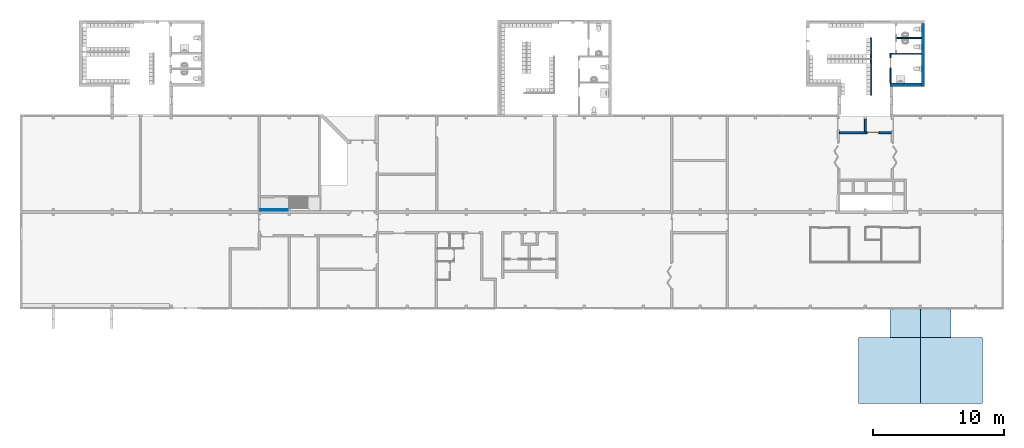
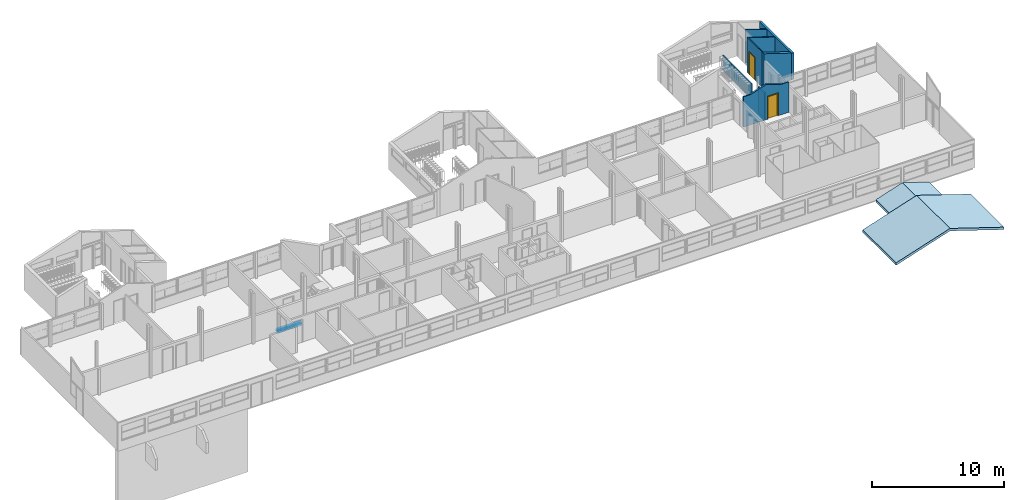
# One storey, part 33 of 48: 8 walls, 3 building element parts, 2 doors, 2 roofs, 2 openings, 1 element without a shape of its own.
"""IFC2X3 building model written with IfcOpenShell, lengths in millimetres."""

from ifc_helpers import new_model, entity, si_unit, converted_unit, derived_unit, money_unit, direction, frame, origin_with_axes, place, context, subcontext, project, spatial, open_shell, faceted_brep, surface_model, material, type_object, element, fill, aggregate, save


model = new_model("IFC2X3")

# Units and contexts
model_context = context("Model", 3, precision=0.01, world=origin_with_axes(), true_north=direction((0.0, 1.0)))
body_context = subcontext(model_context, "Body", "Model", "MODEL_VIEW")
ifc_project = project(units=[si_unit("LENGTHUNIT", "METRE", prefix="MILLI"), si_unit("AREAUNIT", "SQUARE_METRE"), si_unit("VOLUMEUNIT", "CUBIC_METRE"), converted_unit("PLANEANGLEUNIT", "DEGREE", entity("IfcPlaneAngleMeasure", 0.0174532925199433), si_unit("PLANEANGLEUNIT", "RADIAN"), dimensions=[0, 0, 0, 0, 0, 0, 0]), money_unit("USD"), converted_unit("TIMEUNIT", "Year", entity("IfcTimeMeasure", 31557600.0), si_unit("TIMEUNIT", "SECOND"), dimensions=[0, 0, 1, 0, 0, 0, 0]), si_unit("MASSUNIT", "GRAM", prefix="KILO"), si_unit("THERMODYNAMICTEMPERATUREUNIT", "DEGREE_CELSIUS"), si_unit("LUMINOUSINTENSITYUNIT", "LUMEN"), si_unit("ENERGYUNIT", "JOULE", prefix="MEGA"), derived_unit("THERMALCONDUCTANCEUNIT", [(si_unit("POWERUNIT", "WATT"), 1), (si_unit("LENGTHUNIT", "METRE"), -1), (si_unit("THERMODYNAMICTEMPERATUREUNIT", "KELVIN"), -1)]), derived_unit("SPECIFICHEATCAPACITYUNIT", [(si_unit("ENERGYUNIT", "JOULE"), 1), (si_unit("MASSUNIT", "GRAM", prefix="KILO"), -1), (si_unit("THERMODYNAMICTEMPERATUREUNIT", "KELVIN"), -1)]), derived_unit("MASSDENSITYUNIT", [(si_unit("MASSUNIT", "GRAM", prefix="KILO"), 1), (si_unit("VOLUMEUNIT", "CUBIC_METRE"), -1)])], contexts=[model_context])

# Site, building, storey
site_placement = place(None, origin_with_axes())
site = spatial("IfcSite", under=ifc_project, at=site_placement, Name="Site", CompositionType="ELEMENT")
building_placement = place(site_placement, origin_with_axes())
building = spatial("IfcBuilding", under=site, at=building_placement, Name="Building", CompositionType="ELEMENT")
storey_placement = place(building_placement, frame((0.0, 0.0, 3300.0), z_axis=(0.0, 0.0, 1.0), x_axis=(1.0, 0.0, 0.0)))
storey = spatial("IfcBuildingStorey", under=building, at=storey_placement, Name="1 ETG", CompositionType="ELEMENT", Elevation=3300.0)

# Wall, opening, door
ifc_material_1 = material(Name="GENERIC - INTERNAL FILLER")
wall_type_1 = type_object("IfcWallType", Name="GENERIC - INTERNAL FILLER 150", PredefinedType="NOTDEFINED")
wall_1_placement = place(storey_placement, frame((59971.49461503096, 20619.89616703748, 0.0), z_axis=(0.0, 0.0, 1.0), x_axis=(1.0, 0.0, 0.0)))
wall_1 = element("IfcWall", 1, at=wall_1_placement, inside=storey, type_object=wall_type_1, material=ifc_material_1, Name="SW - 001", context=body_context, shape_type="Brep", body=[
    faceted_brep([(2111.657667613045, 0.0, 2100.0), (2111.657667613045, 0.0, 0.0), (0.0, 0.0, 0.0), (0.0, 0.0, 2400.0), (0.0, 0.0, 2762.143786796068), (481.7342992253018, 0.0, 2762.143786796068), (1978.516077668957, 0.0, 3248.537732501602), (3475.607365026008, 0.0, 2762.143786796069), (3968.505384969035, 0.0, 2762.143786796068), (3968.505384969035, 0.0, 2400.0), (3968.505384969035, 0.0, 0.0), (3011.657667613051, 0.0, 0.0), (3011.657667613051, 0.0, 2100.0), (2111.657667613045, -149.9999999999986, 2100.0), (2111.657667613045, -149.9999999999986, 0.0), (1.326301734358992, -149.9999999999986, 0.0), (1.326301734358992, -149.9999999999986, 2400.0), (0.0, -149.9999999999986, 2810.831202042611), (0.0, -149.9999999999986, 2400.000000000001), (631.5602512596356, -149.9999999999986, 2810.831202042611), (1978.516077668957, -149.9999999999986, 3248.537732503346), (3325.750431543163, -149.9999999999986, 2810.831202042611), (3968.505384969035, -149.9999999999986, 2810.831202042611), (3968.505384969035, -149.9999999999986, 2400.0), (3968.505384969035, -149.9999999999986, 0.0), (3011.657667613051, -149.9999999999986, 0.0), (3011.657667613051, -149.9999999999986, 2100.0)], [[[0, 1, 2, 3, 4, 5, 6, 7, 8, 9, 10, 11, 12]], [[1, 0, 13, 14]], [[1, 14, 15, 2]], [[2, 15, 16, 3]], [[17, 4, 3, 18]], [[17, 19, 5, 4]], [[20, 6, 5, 19]], [[7, 6, 20, 21]], [[22, 8, 7, 21]], [[23, 24, 10, 9, 8, 22]], [[25, 11, 10, 24]], [[12, 11, 25, 26]], [[0, 12, 26, 13]], [[26, 25, 24, 23, 22, 21, 20, 19, 17, 18, 16, 15, 14, 13]], [[18, 3, 16]]]),
])
opening_1_placement = place(wall_1_placement, frame((2561.657667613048, 0.0, 0.0), z_axis=(0.0, 0.0, 1.0), x_axis=(1.0, 0.0, 0.0)))
opening_1 = element("IfcOpeningElement", 2, at=opening_1_placement, cuts=wall_1, Name="DOO - 002", context=body_context, shape_type="Brep", body=[
    faceted_brep([(-450.0000000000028, -149.9999999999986, 2100.0), (450.0000000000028, -149.9999999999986, 2100.0), (450.0000000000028, 0.0, 2100.0), (-450.0000000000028, 0.0, 2100.0), (450.0000000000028, -149.9999999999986, 0.0), (-450.0000000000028, -149.9999999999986, 0.0), (-487.0000000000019, -149.9999999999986, 0.0), (-487.0000000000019, -149.9999999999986, 2137.0), (487.0000000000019, -149.9999999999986, 2137.0), (487.0000000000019, -149.9999999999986, 0.0), (450.0000000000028, 0.0, 0.0), (487.0000000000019, 0.0, 0.0), (487.0000000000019, 0.0, 2137.0), (-487.0000000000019, 0.0, 2137.0), (-487.0000000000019, 0.0, 0.0), (-450.0000000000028, 0.0, 0.0), (-450.0000000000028, -150.9999999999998, 0.0), (-487.0000000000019, -150.9999999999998, 0.0), (-487.0000000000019, -150.9999999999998, 2137.0), (487.0000000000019, -150.9999999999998, 2137.0), (487.0000000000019, -150.9999999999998, 0.0), (450.0000000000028, -150.9999999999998, 0.0), (-450.0000000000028, 1.000000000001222, 0.0), (450.0000000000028, 1.000000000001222, 0.0), (487.0000000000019, 1.000000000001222, 0.0), (487.0000000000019, 1.000000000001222, 2137.0), (-487.0000000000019, 1.000000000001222, 2137.0), (-487.0000000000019, 1.000000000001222, 0.0), (-450.0000000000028, -150.9999999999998, 2100.0), (450.0000000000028, -150.9999999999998, 2100.0)], [[[0, 1, 2, 3]], [[4, 1, 0, 5, 6, 7, 8, 9]], [[1, 4, 10, 2]], [[3, 2, 10, 11, 12, 13, 14, 15]], [[5, 0, 3, 15]], [[5, 16, 17, 6]], [[7, 6, 17, 18]], [[8, 7, 18, 19]], [[9, 8, 19, 20]], [[21, 4, 9, 20]], [[16, 5, 15, 22, 23, 10, 4, 21]], [[10, 23, 24, 11]], [[12, 11, 24, 25]], [[13, 12, 25, 26]], [[14, 13, 26, 27]], [[22, 15, 14, 27]], [[28, 29, 21, 20, 19, 18, 17, 16]], [[23, 22, 27, 26, 25, 24]], [[28, 16, 21, 29]]]),
])
door_style_1 = type_object("IfcDoorStyle", Name="Dør", ConstructionType="NOTDEFINED", OperationType="SINGLE_SWING_LEFT", ParameterTakesPrecedence=False, Sizeable=False)
door_1_placement = place(opening_1_placement, frame((-450.0000000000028, 0.0, 0.0), z_axis=(0.0, 0.0, 1.0), x_axis=(1.0, 0.0, 0.0)))
door_1 = element("IfcDoor", 3, at=door_1_placement, inside=storey, type_object=door_style_1, Name="DOO - 002", ObjectType="DOOR", OverallHeight=2100.0, OverallWidth=900.0, context=body_context, shape_type="Brep", body=[
    faceted_brep([(900.0000000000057, -35.00000000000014, 0.0), (875.0, -35.00000000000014, 0.0), (875.0, 0.0, 0.0), (900.0000000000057, 0.0, 0.0), (900.0000000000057, -35.00000000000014, 2100.0), (875.0, -35.00000000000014, 2075.0), (875.0, 0.0, 2075.0), (900.0000000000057, 0.0, 2100.0)], [[[0, 1, 2, 3]], [[0, 4, 5, 1]], [[1, 5, 6, 2]], [[3, 2, 6, 7]], [[4, 0, 3, 7]], [[5, 4, 7, 6]]]),
    faceted_brep([(0.0, -35.00000000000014, 2100.0), (25.00000000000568, -35.00000000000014, 2075.0), (25.00000000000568, 0.0, 2075.0), (0.0, 0.0, 2100.0), (0.0, -35.00000000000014, 0.0), (25.00000000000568, -35.00000000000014, 0.0), (25.00000000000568, 0.0, 0.0), (0.0, 0.0, 0.0)], [[[0, 1, 2, 3]], [[0, 4, 5, 1]], [[1, 5, 6, 2]], [[3, 2, 6, 7]], [[4, 0, 3, 7]], [[5, 4, 7, 6]]]),
    faceted_brep([(875.0, -35.00000000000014, 2075.0), (25.00000000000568, -35.00000000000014, 2075.0), (25.00000000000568, 0.0, 2075.0), (875.0, 0.0, 2075.0), (900.0000000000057, -35.00000000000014, 2100.0), (0.0, -35.00000000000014, 2100.0), (0.0, 0.0, 2100.0), (900.0000000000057, 0.0, 2100.0)], [[[0, 1, 2, 3]], [[0, 4, 5, 1]], [[1, 5, 6, 2]], [[3, 2, 6, 7]], [[4, 0, 3, 7]], [[5, 4, 7, 6]]]),
    faceted_brep([(937.0000000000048, 18.99999999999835, 0.0), (937.0000000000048, 0.0, 0.0), (887.0000000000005, 0.0, 0.0), (887.0000000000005, 18.99999999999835, 0.0), (937.0000000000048, 19.0000000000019, 2137.0), (937.0000000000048, 0.0, 2137.0), (887.0000000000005, 0.0, 2087.0), (887.0000000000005, 19.0000000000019, 2087.0)], [[[0, 1, 2, 3]], [[4, 5, 1, 0]], [[1, 5, 6, 2]], [[3, 2, 6, 7]], [[0, 3, 7, 4]], [[7, 6, 5, 4]]]),
    faceted_brep([(-36.99999999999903, 19.0000000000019, 2137.0), (-36.99999999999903, 0.0, 2137.0), (13.00000000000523, 0.0, 2087.0), (13.00000000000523, 19.0000000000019, 2087.0), (-36.99999999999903, 18.99999999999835, 0.0), (-36.99999999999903, 0.0, 0.0), (13.00000000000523, 0.0, 0.0), (13.00000000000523, 18.99999999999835, 0.0)], [[[0, 1, 2, 3]], [[4, 5, 1, 0]], [[1, 5, 6, 2]], [[3, 2, 6, 7]], [[0, 3, 7, 4]], [[7, 6, 5, 4]]]),
    faceted_brep([(937.0000000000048, 19.0000000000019, 2137.0), (937.0000000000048, 0.0, 2137.0), (887.0000000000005, 0.0, 2087.0), (887.0000000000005, 19.0000000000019, 2087.0), (-36.99999999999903, 19.0000000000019, 2137.0), (-36.99999999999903, 0.0, 2137.0), (13.00000000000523, 0.0, 2087.0), (13.00000000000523, 19.0000000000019, 2087.0)], [[[0, 1, 2, 3]], [[4, 5, 1, 0]], [[1, 5, 6, 2]], [[3, 2, 6, 7]], [[0, 3, 7, 4]], [[7, 6, 5, 4]]]),
    faceted_brep([(937.0000000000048, -169.0000000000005, 0.0), (887.0000000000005, -169.0000000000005, 0.0), (887.0000000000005, -149.9999999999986, 0.0), (937.0000000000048, -149.9999999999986, 0.0), (937.0000000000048, -169.0000000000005, 2137.0), (887.0000000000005, -169.0000000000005, 2087.0), (887.0000000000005, -149.9999999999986, 2087.0), (937.0000000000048, -149.9999999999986, 2137.0)], [[[0, 1, 2, 3]], [[0, 4, 5, 1]], [[1, 5, 6, 2]], [[3, 2, 6, 7]], [[4, 0, 3, 7]], [[5, 4, 7, 6]]]),
    faceted_brep([(-36.99999999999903, -169.0000000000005, 2137.0), (13.00000000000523, -169.0000000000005, 2087.0), (13.00000000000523, -149.9999999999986, 2087.0), (-36.99999999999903, -149.9999999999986, 2137.0), (-36.99999999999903, -169.0000000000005, 0.0), (13.00000000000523, -169.0000000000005, 0.0), (13.00000000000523, -149.9999999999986, 0.0), (-36.99999999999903, -149.9999999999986, 0.0)], [[[0, 1, 2, 3]], [[0, 4, 5, 1]], [[1, 5, 6, 2]], [[3, 2, 6, 7]], [[4, 0, 3, 7]], [[5, 4, 7, 6]]]),
    faceted_brep([(937.0000000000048, -169.0000000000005, 2137.0), (887.0000000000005, -169.0000000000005, 2087.0), (887.0000000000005, -149.9999999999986, 2087.0), (937.0000000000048, -149.9999999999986, 2137.0), (-36.99999999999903, -169.0000000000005, 2137.0), (13.00000000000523, -169.0000000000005, 2087.0), (13.00000000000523, -149.9999999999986, 2087.0), (-36.99999999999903, -149.9999999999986, 2137.0)], [[[0, 1, 2, 3]], [[0, 4, 5, 1]], [[1, 5, 6, 2]], [[3, 2, 6, 7]], [[4, 0, 3, 7]], [[5, 4, 7, 6]]]),
    faceted_brep([(900.0000000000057, -35.00000000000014, 0.0), (900.0000000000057, -149.9999999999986, 0.0), (859.9999999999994, -149.9999999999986, 0.0), (859.9999999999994, -35.00000000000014, 0.0), (900.0000000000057, -35.00000000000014, 2060.0), (900.0000000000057, -149.9999999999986, 2060.0), (859.9999999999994, -149.9999999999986, 2060.0), (859.9999999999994, -35.00000000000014, 2060.0)], [[[0, 1, 2, 3]], [[4, 5, 1, 0]], [[1, 5, 6, 2]], [[3, 2, 6, 7]], [[0, 3, 7, 4]], [[7, 6, 5, 4]]]),
    faceted_brep([(0.0, -35.00000000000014, 0.0), (0.0, -149.9999999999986, 0.0), (0.0, -149.9999999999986, 2060.0), (0.0, -35.00000000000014, 2060.0), (40.00000000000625, -35.00000000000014, 0.0), (40.00000000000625, -149.9999999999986, 0.0), (40.00000000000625, -149.9999999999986, 2060.0), (40.00000000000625, -35.00000000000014, 2060.0)], [[[0, 1, 2, 3]], [[4, 5, 1, 0]], [[1, 5, 6, 2]], [[3, 2, 6, 7]], [[0, 3, 7, 4]], [[7, 6, 5, 4]]]),
    faceted_brep([(900.0000000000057, -35.00000000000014, 2100.0), (900.0000000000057, -149.9999999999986, 2100.0), (900.0000000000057, -149.9999999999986, 2060.0), (900.0000000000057, -35.00000000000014, 2060.0), (0.0, -35.00000000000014, 2100.0), (0.0, -149.9999999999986, 2100.0), (0.0, -149.9999999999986, 2060.0), (40.00000000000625, -149.9999999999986, 2060.0), (859.9999999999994, -149.9999999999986, 2060.0), (859.9999999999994, -35.00000000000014, 2060.0), (40.00000000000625, -35.00000000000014, 2060.0), (0.0, -35.00000000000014, 2060.0)], [[[0, 1, 2, 3]], [[4, 5, 1, 0]], [[1, 5, 6, 7, 8, 2]], [[3, 2, 8, 9]], [[0, 3, 9, 10, 11, 4]], [[11, 6, 5, 4]], [[10, 7, 6, 11]], [[9, 8, 7, 10]]]),
    faceted_brep([(40.00000000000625, -35.00000000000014, 0.0), (859.9999999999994, -35.00000000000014, 0.0), (859.9999999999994, -74.99999999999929, 0.0), (40.00000000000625, -74.99999999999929, 0.0), (40.00000000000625, -35.00000000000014, 2060.0), (859.9999999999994, -35.00000000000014, 2060.0), (859.9999999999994, -74.99999999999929, 2060.0), (40.00000000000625, -74.99999999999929, 2060.0)], [[[0, 1, 2, 3]], [[0, 4, 5, 1]], [[1, 5, 6, 2]], [[3, 2, 6, 7]], [[4, 0, 3, 7]], [[5, 4, 7, 6]]]),
])
fill(opening_1, door_1)

# Walls
wall_2_placement = place(storey_placement, frame((61949.99999999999, 21599.89284399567, 0.0), z_axis=(0.0, 0.0, 1.0), x_axis=(0.0, -1.0, 0.0)))
element("IfcWall", 4, at=wall_2_placement, inside=storey, type_object=wall_type_1, material=ifc_material_1, Name="SW - 001", context=body_context, shape_type="Brep", body=[
    faceted_brep([(0.0, -75.00000000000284, 2400.0), (979.9966769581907, -75.00000000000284, 2400.0), (979.9966769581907, 75.00000000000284, 2400.0), (0.0, 75.00000000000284, 2400.0), (0.0, -75.00000000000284, 0.0), (979.9966769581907, -75.00000000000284, 0.0), (979.9966769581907, 75.00000000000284, 0.0), (0.0, 75.00000000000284, 0.0)], [[[0, 1, 2, 3]], [[4, 5, 1, 0]], [[6, 2, 1, 5]], [[3, 2, 6, 7]], [[7, 4, 0, 3]], [[7, 6, 5, 4]]]),
])
wall_type_2 = type_object("IfcWallType", Name="GENERIC - INTERNAL FILLER 250", PredefinedType="NOTDEFINED")
wall_3_placement = place(storey_placement, frame((66349.99923270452, 28994.83911737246, 0.0), z_axis=(0.0, 0.0, 1.0), x_axis=(1.398240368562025e-07, -0.9999999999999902, 0.0)))
element("IfcWall", 5, at=wall_3_placement, inside=storey, type_object=wall_type_2, material=ifc_material_1, Name="SW - 001", context=body_context, shape_type="Brep", body=[
    faceted_brep([(124.9999825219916, -125.0000000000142, 0.0), (124.9999825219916, -125.0000000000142, 2481.229928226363), (125.0000174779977, 124.9999650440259, 2399.999999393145), (125.0000174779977, 124.9999650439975, 0.0), (4925.013280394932, -125.0000000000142, 0.0), (4925.013280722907, -125.0000000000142, 2481.229710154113), (4925.013315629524, 124.9992938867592, 2399.999999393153), (4925.013315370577, 124.9992938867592, 0.0)], [[[0, 1, 2, 3]], [[4, 5, 1, 0]], [[5, 6, 2, 1]], [[3, 2, 6, 7]], [[0, 3, 7, 4]], [[7, 6, 5, 4]]]),
])
wall_4_placement = place(storey_placement, frame((66349.99990387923, 24194.70079586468, 0.0), z_axis=(0.0, 0.0, 1.0), x_axis=(-1.0, 0.0, 0.0)))
element("IfcWall", 6, at=wall_4_placement, inside=storey, type_object=wall_type_2, material=ifc_material_1, Name="SW - 001", context=body_context, shape_type="Brep", body=[
    faceted_brep([(125.0000174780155, -125.0, 0.0), (2525.000038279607, -125.0, 0.0), (2525.000038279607, -125.0, 3261.037154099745), (125.0000174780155, -125.0, 2481.229721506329), (2274.999963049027, 124.8749764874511, 0.0), (2274.999963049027, 125.0, 0.0), (2525.000025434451, 125.0, 0.0), (124.9999825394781, 124.8749763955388, 0.0), (2525.000025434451, 125.0, 2639.36753965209), (2525.000025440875, 124.8749760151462, 2639.367539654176), (2525.000025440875, 124.8749768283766, 3261.037149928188), (124.9999825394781, 124.8749764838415, 2481.229710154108), (2274.999963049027, 125.0, 2558.144358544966), (2274.999963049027, 124.8749767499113, 2558.144358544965)], [[[0, 1, 2, 3]], [[4, 5, 6, 1, 0, 7]], [[1, 6, 8, 9, 10, 2]], [[3, 2, 10, 11]], [[3, 11, 7, 0]], [[12, 5, 4, 13]], [[8, 6, 5, 12]], [[10, 9, 13, 4, 7, 11]], [[13, 9, 8, 12]]]),
])
wall_type_3 = type_object("IfcWallType", Name="GENERIC - INTERNAL FILLER 100", PredefinedType="NOTDEFINED")
wall_5_placement = place(storey_placement, frame((64289.99987256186, 27769.76991117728, 0.0), z_axis=(0.0, 0.0, 1.0), x_axis=(0.9999999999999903, 1.398240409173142e-07, 0.0)))
element("IfcWall", 7, at=wall_5_placement, inside=storey, type_object=wall_type_3, material=ifc_material_1, Name="SW - 001", context=body_context, shape_type="Brep", body=[
    faceted_brep([(50.00000709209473, 49.99999300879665, 0.0), (50.00000709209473, 49.99999300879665, 3093.703475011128), (1934.999531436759, 49.99972944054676, 2481.229880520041), (1934.999531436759, 49.99972944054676, 0.0), (49.99999290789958, -50.00000699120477, 0.0), (49.99999290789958, -50.00000699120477, 3093.703475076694), (1934.999531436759, -50.00027055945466, 2481.229875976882), (1934.999531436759, -50.00027055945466, 0.0)], [[[0, 1, 2, 3]], [[4, 5, 1, 0]], [[5, 6, 2, 1]], [[3, 2, 6, 7]], [[0, 3, 7, 4]], [[7, 6, 5, 4]]]),
])

# Wall, opening, door
wall_6_placement = place(storey_placement, frame((63874.99986559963, 24319.70079576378, 0.0), z_axis=(0.0, 0.0, 1.0), x_axis=(2.018002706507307e-09, 1.0, 0.0)))
wall_6 = element("IfcWall", 8, at=wall_6_placement, inside=storey, type_object=wall_type_3, material=ifc_material_1, Name="SW - 001", context=body_context, shape_type="Brep", body=[
    faceted_brep([(1150.000030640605, -49.99999767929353, 0.0), (1150.000030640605, -49.99999767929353, 2100.0), (1950.000030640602, -49.99999606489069, 2100.0), (1950.000030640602, -49.99999606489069, 0.0), (2300.000030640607, -49.9999953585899, 0.0), (2300.000030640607, -49.9999953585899, 3228.545178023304), (1.00900621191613e-07, -49.99999999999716, 3228.545178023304), (1.00900621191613e-07, -49.99999999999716, 0.0), (1150.000030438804, 50.00000232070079, 0.0), (1150.000030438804, 50.00000232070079, 2100.0), (1950.000030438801, 50.00000393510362, 2100.0), (1950.000030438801, 50.00000393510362, 0.0), (2300.000030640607, 50.00000464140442, 0.0), (2300.000030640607, 50.00000464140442, 3261.037154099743), (-1.00900621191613e-07, 49.99999999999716, 3261.037154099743), (-1.00900621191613e-07, 49.99999999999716, 0.0)], [[[0, 1, 2, 3, 4, 5, 6, 7]], [[1, 0, 8, 9]], [[2, 1, 9, 10]], [[3, 2, 10, 11]], [[3, 11, 12, 4]], [[13, 5, 4, 12]], [[6, 5, 13, 14]], [[6, 14, 15, 7]], [[8, 0, 7, 15]], [[9, 8, 15, 14, 13, 12, 11, 10]]]),
])
opening_2_placement = place(wall_6_placement, frame((1550.000030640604, 0.0, 0.0), z_axis=(0.0, 0.0, 1.0), x_axis=(1.0, 0.0, 0.0)))
opening_2 = element("IfcOpeningElement", 9, at=opening_2_placement, cuts=wall_6, Name="DOO - 002", context=body_context, shape_type="Brep", body=[
    faceted_brep([(399.9999997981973, 50.00000393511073, 0.0), (399.9999997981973, 50.00000393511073, 2100.0), (399.9999999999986, -49.99999606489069, 2100.0), (399.9999999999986, -49.99999606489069, 0.0), (-400.0000002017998, 50.00000232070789, 2100.0), (436.9999997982, 50.00000400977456, 0.0), (436.9999997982, 50.00000400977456, 2137.0), (-437.0000002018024, 50.00000224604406, 2137.0), (-437.0000002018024, 50.00000224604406, 0.0), (-400.0000002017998, 50.00000232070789, 0.0), (-399.9999999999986, -49.99999767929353, 2100.0), (-399.9999999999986, -49.99999767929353, 0.0), (-437.0000000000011, -49.99999775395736, 0.0), (-437.0000000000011, -49.99999775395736, 2137.0), (437.0000000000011, -49.99999599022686, 2137.0), (437.0000000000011, -49.99999599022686, 0.0), (399.9999997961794, 51.00000393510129, 0.0), (400.0000000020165, -51.00000050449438, 0.0), (-399.9999999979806, -51.00000211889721, 0.0), (-400.0000002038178, 51.00000232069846, 0.0), (436.999999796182, 51.00000400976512, 0.0), (436.999999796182, 51.00000400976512, 2137.0), (-437.0000002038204, 51.00000224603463, 2137.0), (-437.0000002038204, 51.00000224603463, 0.0), (-436.9999999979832, -51.00000219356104, 0.0), (-436.9999999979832, -51.00000219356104, 2137.0), (437.0000000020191, -51.00000042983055, 2137.0), (437.0000000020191, -51.00000042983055, 0.0), (399.9999997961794, 51.00000393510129, 2100.0), (-400.0000002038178, 51.00000232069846, 2100.0)], [[[0, 1, 2, 3]], [[4, 1, 0, 5, 6, 7, 8, 9]], [[1, 4, 10, 2]], [[3, 2, 10, 11, 12, 13, 14, 15]], [[16, 0, 3, 17, 18, 11, 9, 19]], [[0, 16, 20, 5]], [[6, 5, 20, 21]], [[7, 6, 21, 22]], [[8, 7, 22, 23]], [[19, 9, 8, 23]], [[4, 9, 11, 10]], [[11, 18, 24, 12]], [[13, 12, 24, 25]], [[14, 13, 25, 26]], [[15, 14, 26, 27]], [[17, 3, 15, 27]], [[17, 27, 26, 25, 24, 18]], [[28, 16, 19, 29]], [[16, 28, 29, 19, 23, 22, 21, 20]]]),
])
door_style_2 = type_object("IfcDoorStyle", Name="Dør", ConstructionType="NOTDEFINED", OperationType="SINGLE_SWING_RIGHT", ParameterTakesPrecedence=False, Sizeable=False)
door_2_placement = place(opening_2_placement, frame((-399.9999999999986, 0.0, 0.0), z_axis=(0.0, 0.0, 1.0), x_axis=(1.0, 0.0, 0.0)))
door_2 = element("IfcDoor", 10, at=door_2_placement, inside=storey, type_object=door_style_2, Name="DOO - 002", ObjectType="DOOR", OverallHeight=2100.0, OverallWidth=800.0, context=body_context, shape_type="Brep", body=[
    faceted_brep([(-36.9999999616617, -68.99999775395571, 0.0), (-37.00000000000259, -49.99999775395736, 0.0), (12.99999999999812, -49.99999765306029, 0.0), (13.00000003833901, -68.99999765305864, 0.0), (-36.9999999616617, -68.99999775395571, 2137.0), (-37.00000000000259, -49.99999775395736, 2137.0), (12.99999999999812, -49.99999765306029, 2087.0), (13.00000003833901, -68.99999765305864, 2087.0)], [[[0, 1, 2, 3]], [[4, 5, 1, 0]], [[1, 5, 6, 2]], [[3, 2, 6, 7]], [[0, 3, 7, 4]], [[7, 6, 5, 4]]]),
    faceted_brep([(837.0000000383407, -68.99999599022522, 2137.0), (836.9999999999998, -49.99999599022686, 2137.0), (786.9999999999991, -49.99999609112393, 2087.0), (787.00000003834, -68.99999609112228, 2087.0), (837.0000000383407, -68.99999599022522, 0.0), (836.9999999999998, -49.99999599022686, 0.0), (786.9999999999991, -49.99999609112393, 0.0), (787.00000003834, -68.99999609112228, 0.0)], [[[0, 1, 2, 3]], [[4, 5, 1, 0]], [[1, 5, 6, 2]], [[3, 2, 6, 7]], [[0, 3, 7, 4]], [[7, 6, 5, 4]]]),
    faceted_brep([(-36.9999999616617, -68.99999775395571, 2137.0), (-37.00000000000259, -49.99999775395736, 2137.0), (12.99999999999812, -49.99999765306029, 2087.0), (13.00000003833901, -68.99999765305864, 2087.0), (837.0000000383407, -68.99999599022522, 2137.0), (836.9999999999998, -49.99999599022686, 2137.0), (786.9999999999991, -49.99999609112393, 2087.0), (787.00000003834, -68.99999609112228, 2087.0)], [[[0, 1, 2, 3]], [[4, 5, 1, 0]], [[1, 5, 6, 2]], [[3, 2, 6, 7]], [[0, 3, 7, 4]], [[7, 6, 5, 4]]]),
    faceted_brep([(-37.00000024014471, 69.00000224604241, 0.0), (12.999999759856, 69.00000234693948, 0.0), (12.99999979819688, 50.00000234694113, 0.0), (-37.00000020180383, 50.00000224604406, 0.0), (-37.00000024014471, 69.00000224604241, 2137.0), (12.999999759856, 69.00000234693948, 2087.0), (12.99999979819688, 50.00000234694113, 2087.0), (-37.00000020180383, 50.00000224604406, 2137.0)], [[[0, 1, 2, 3]], [[0, 4, 5, 1]], [[1, 5, 6, 2]], [[3, 2, 6, 7]], [[4, 0, 3, 7]], [[5, 4, 7, 6]]]),
    faceted_brep([(836.9999997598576, 69.00000400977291, 2137.0), (786.9999997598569, 69.00000390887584, 2087.0), (786.9999997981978, 50.00000390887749, 2087.0), (836.9999997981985, 50.00000400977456, 2137.0), (836.9999997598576, 69.00000400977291, 0.0), (786.9999997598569, 69.00000390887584, 0.0), (786.9999997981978, 50.00000390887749, 0.0), (836.9999997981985, 50.00000400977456, 0.0)], [[[0, 1, 2, 3]], [[0, 4, 5, 1]], [[1, 5, 6, 2]], [[3, 2, 6, 7]], [[4, 0, 3, 7]], [[5, 4, 7, 6]]]),
    faceted_brep([(-37.00000024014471, 69.00000224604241, 2137.0), (12.999999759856, 69.00000234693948, 2087.0), (12.99999979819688, 50.00000234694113, 2087.0), (-37.00000020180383, 50.00000224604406, 2137.0), (836.9999997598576, 69.00000400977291, 2137.0), (786.9999997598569, 69.00000390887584, 2087.0), (786.9999997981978, 50.00000390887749, 2087.0), (836.9999997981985, 50.00000400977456, 2137.0)], [[[0, 1, 2, 3]], [[0, 4, 5, 1]], [[1, 5, 6, 2]], [[3, 2, 6, 7]], [[4, 0, 3, 7]], [[5, 4, 7, 6]]]),
    faceted_brep([(-2.018012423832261e-07, 50.00000232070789, 0.0), (39.9999997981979, 50.00000240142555, 0.0), (40.00000003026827, -64.99999759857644, 0.0), (3.026912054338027e-08, -64.9999976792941, 0.0), (-2.018012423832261e-07, 50.00000232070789, 2060.0), (39.9999997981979, 50.00000240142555, 2060.0), (40.00000003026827, -64.99999759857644, 2060.0), (3.026912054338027e-08, -64.9999976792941, 2060.0)], [[[0, 1, 2, 3]], [[0, 4, 5, 1]], [[1, 5, 6, 2]], [[3, 2, 6, 7]], [[4, 0, 3, 7]], [[5, 4, 7, 6]]]),
    faceted_brep([(799.9999997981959, 50.00000393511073, 0.0), (799.9999997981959, 50.00000393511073, 2060.0), (800.0000000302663, -64.99999606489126, 2060.0), (800.0000000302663, -64.99999606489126, 0.0), (759.9999997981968, 50.00000385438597, 0.0), (759.9999997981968, 50.00000385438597, 2060.0), (760.0000000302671, -64.99999614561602, 2060.0), (760.0000000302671, -64.99999614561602, 0.0)], [[[0, 1, 2, 3]], [[0, 4, 5, 1]], [[1, 5, 6, 2]], [[3, 2, 6, 7]], [[4, 0, 3, 7]], [[5, 4, 7, 6]]]),
    faceted_brep([(-2.018012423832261e-07, 50.00000232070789, 2100.0), (-2.018012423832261e-07, 50.00000232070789, 2060.0), (3.026912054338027e-08, -64.9999976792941, 2060.0), (3.026912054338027e-08, -64.9999976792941, 2100.0), (799.9999997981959, 50.00000393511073, 2100.0), (799.9999997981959, 50.00000393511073, 2060.0), (759.9999997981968, 50.00000385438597, 2060.0), (39.9999997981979, 50.00000240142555, 2060.0), (40.00000003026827, -64.99999759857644, 2060.0), (760.0000000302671, -64.99999614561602, 2060.0), (800.0000000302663, -64.99999606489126, 2060.0), (800.0000000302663, -64.99999606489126, 2100.0)], [[[0, 1, 2, 3]], [[0, 4, 5, 6, 7, 1]], [[1, 7, 8, 2]], [[3, 2, 8, 9, 10, 11]], [[4, 0, 3, 11]], [[5, 4, 11, 10]], [[6, 5, 10, 9]], [[7, 6, 9, 8]]]),
    faceted_brep([(759.9999997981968, 50.00000385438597, 0.0), (759.999999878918, 10.00000385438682, 0.0), (39.99999987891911, 10.0000024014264, 0.0), (39.9999997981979, 50.00000240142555, 0.0), (759.9999997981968, 50.00000385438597, 2060.0), (759.999999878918, 10.00000385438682, 2060.0), (39.99999987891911, 10.0000024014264, 2060.0), (39.9999997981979, 50.00000240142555, 2060.0)], [[[0, 1, 2, 3]], [[4, 5, 1, 0]], [[1, 5, 6, 2]], [[3, 2, 6, 7]], [[0, 3, 7, 4]], [[7, 6, 5, 4]]]),
])
fill(opening_2, door_2)

# Walls
wall_7_placement = place(storey_placement, frame((63874.99987003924, 26519.70082640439, 0.0), z_axis=(0.0, 0.0, 1.0), x_axis=(1.0, -2.018000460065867e-09, 0.0)))
element("IfcWall", 11, at=wall_7_placement, inside=storey, type_object=wall_type_3, material=ifc_material_1, Name="SW - 001", context=body_context, shape_type="Brep", body=[
    faceted_brep([(50.00000000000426, 100.000000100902, 0.0), (50.00000000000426, 100.000000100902, 3228.54517651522), (2349.999694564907, 100.0000047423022, 2481.229825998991), (2349.999694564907, 100.0000047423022, 0.0), (49.99999999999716, 1.00900621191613e-07, 0.0), (49.99999999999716, 1.00900621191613e-07, 3228.545176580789), (2349.999708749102, 4.742300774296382e-06, 2481.229821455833), (2349.999708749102, 4.742300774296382e-06, 0.0)], [[[0, 1, 2, 3]], [[4, 5, 1, 0]], [[5, 6, 2, 1]], [[3, 2, 6, 7]], [[0, 3, 7, 4]], [[7, 6, 5, 4]]]),
])
wall_8_placement = place(storey_placement, frame((62340.01863631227, 27794.76961267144, 0.0), z_axis=(0.0, 0.0, 1.0), x_axis=(0.0, -1.0, 0.0)))
element("IfcWall", 12, at=wall_8_placement, inside=storey, type_object=wall_type_3, material=ifc_material_1, Name="SW - 001", context=body_context, shape_type="Brep", body=[
    faceted_brep([(0.0, 0.0, 1400.0), (4374.931903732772, 0.0, 1400.0), (4374.931903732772, 100.0000000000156, 1400.0), (0.0, 100.0000000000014, 1400.0), (0.0, 0.0, 0.0), (4374.931903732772, 0.0, 0.0), (4374.931903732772, 100.0000000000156, 0.0), (0.0, 100.0000000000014, 0.0)], [[[0, 1, 2, 3]], [[4, 5, 1, 0]], [[2, 1, 5, 6]], [[3, 2, 6, 7]], [[4, 0, 3, 7]], [[7, 6, 5, 4]]]),
])

# Roofs
ifc_material_2 = material(Name="Membrane - Waterproof")
roof_1_placement = place(storey_placement, frame((66150.0173047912, 6002.504330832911, -86.12388100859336), z_axis=(0.0, 0.0, 1.0), x_axis=(1.0, 0.0, 0.0)))
element("IfcRoof", 13, at=roof_1_placement, inside=storey, material=ifc_material_2, Name="RT - 001", ShapeType="NOTDEFINED", context=body_context, shape_type="Brep", body=[
    faceted_brep([(-0.2200849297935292, 1077.359450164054, 918.9793895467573), (-2324.768261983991, 1077.359451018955, 163.6108571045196), (-2324.768261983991, -1077.359451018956, 163.6108571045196), (-0.2200849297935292, -1077.359451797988, 918.9793895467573), (-0.2133393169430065, 1077.35944980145, 690.3801563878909), (-2324.76826195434, 1077.35945055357, -64.99056806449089), (-2324.76826195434, -1077.359451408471, -64.99056806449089), (-0.2133393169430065, -1077.359452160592, 690.3801563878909), (2324.768261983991, -1077.359451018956, 163.6195230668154), (2324.768261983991, 1077.359451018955, 163.6195230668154), (2324.768262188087, 1077.35945073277, -64.97751859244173), (2324.768262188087, -1077.359451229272, -64.97751859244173)], [[[0, 1, 2, 3]], [[4, 5, 1, 0]], [[2, 1, 5, 6]], [[3, 2, 6, 7]], [[3, 8, 9, 0]], [[7, 6, 5, 4]], [[0, 9, 10, 4]], [[7, 11, 8, 3]], [[9, 8, 11, 10]], [[4, 10, 11, 7]]]),
])
roof_2_placement = place(storey_placement, frame((66149.72131157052, 2400.071775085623, -737.7205769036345), z_axis=(0.0, 0.0, 1.0), x_axis=(1.0, 0.0, 0.0)))
element("IfcRoof", 14, at=roof_2_placement, inside=storey, material=ifc_material_2, Name="RT - 001", ShapeType="NOTDEFINED", context=body_context, shape_type="Brep", body=[
    faceted_brep([(-4724.999951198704, 2525.073079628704, 163.6159651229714), (-4724.999951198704, -2525.073079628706, 163.6159651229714), (0.0759080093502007, -2525.073080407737, 1698.861059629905), (0.0759080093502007, 2525.073104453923, 1698.861059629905), (-4724.99995127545, 2525.0730793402, -64.98287610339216), (-4724.99995127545, -2525.073080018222, -64.98287610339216), (0.07479730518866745, -2525.07308078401, 1470.26185765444), (4724.999951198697, -2525.073079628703, 163.6145384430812), (4724.999951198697, 2525.073079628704, 163.6145384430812), (0.07479730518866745, 2525.073103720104, 1470.26185765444), (4724.999951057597, -2525.073079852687, -64.98502438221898), (4724.999951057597, 2525.073079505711, -64.98502438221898)], [[[0, 1, 2, 3]], [[0, 4, 5, 1]], [[1, 5, 6, 2]], [[7, 8, 3, 2]], [[4, 0, 3, 9]], [[5, 4, 9, 6]], [[10, 7, 2, 6]], [[7, 10, 11, 8]], [[8, 11, 9, 3]], [[11, 10, 6, 9]]]),
])

# Stair, building element parts
stair_placement = place(storey_placement, frame((19494.96070329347, 14599.87497638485, 0.0), z_axis=(0.0, 0.0, 1.0), x_axis=(1.0, 0.0, 0.0)))
stair = element("IfcStair", 15, at=stair_placement, inside=storey, Name="STAIR - 001", ShapeType="NOTDEFINED")
building_element_part_1_placement = place(stair_placement, origin_with_axes())
building_element_part_1 = element("IfcBuildingElementPart", 16, at=building_element_part_1_placement, context=body_context, shape_type="SurfaceModel", body=[
    surface_model("IfcShellBasedSurfaceModel", [(-3694.960703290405, 0.0, 152.9411764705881), (-1621.344079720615, 0.0, 152.9411764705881), (-1621.344079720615, 0.0, 0.0), (-3694.960703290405, 0.0, 0.0)], [open_shell([[[0, 1, 2, 3]]])]),
])
building_element_part_2_placement = place(stair_placement, origin_with_axes())
building_element_part_2 = element("IfcBuildingElementPart", 17, at=building_element_part_2_placement, context=body_context, shape_type="SurfaceModel", body=[
    surface_model("IfcShellBasedSurfaceModel", [(-3694.960703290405, 100.0000000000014, 305.8823529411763), (-1621.344079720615, 100.0000000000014, 305.8823529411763), (-1621.344079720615, 100.0000000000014, 152.9411764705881), (-3694.960703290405, 100.0000000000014, 152.9411764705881)], [open_shell([[[0, 1, 2, 3]]])]),
])
building_element_part_3_placement = place(stair_placement, origin_with_axes())
building_element_part_3 = element("IfcBuildingElementPart", 18, at=building_element_part_3_placement, context=body_context, shape_type="SurfaceModel", body=[
    surface_model("IfcShellBasedSurfaceModel", [(-3694.960703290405, 0.0, 152.9411764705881), (-3694.960703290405, 100.0000000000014, 152.9411764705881), (-1621.344079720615, 100.0000000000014, 152.9411764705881), (-1621.344079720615, 0.0, 152.9411764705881)], [open_shell([[[0, 1, 2, 3]]])]),
])
aggregate(stair, [building_element_part_1, building_element_part_2, building_element_part_3])

save(model, "model.ifc")
